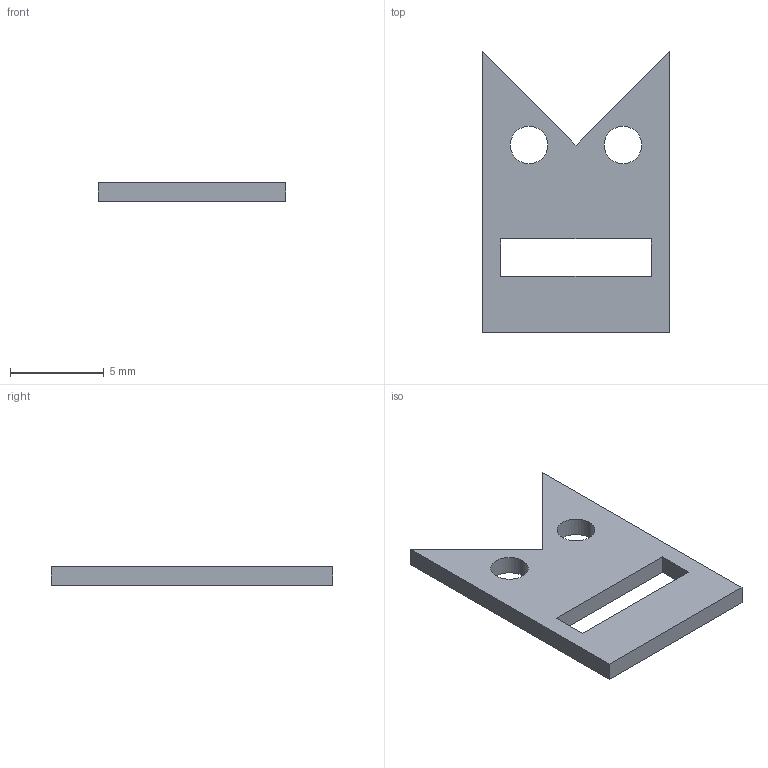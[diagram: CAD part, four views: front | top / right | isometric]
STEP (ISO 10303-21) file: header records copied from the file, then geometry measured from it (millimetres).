
FILE_DESCRIPTION(/* description */ ('Empty Shape Representation Sample File'),/* implementation_level */ '2;1');
FILE_NAME(/* name */ 'output_file',/* time_stamp */ '2018-05-14T17:29:14-04:00',/* author */ (''),/* organization */ (''),/* preprocessor_version */ 'ST-DEVELOPER v17.3',/* originating_system */ 'Geometry Demo',/* authorisation */ '');
FILE_SCHEMA (('AUTOMOTIVE_DESIGN { 1 0 10303 214 3 1 1 }'));
Length unit declared in the file: millimetre
Products named in the file (1): 1234-K789
Bounding box: 10 x 15 x 1 mm (x, y, z)
Volume: 102.7 mm3; surface area: 292.1 mm2
Topology: 1 solids, 1 shells, 15 faces, 39 edges, 26 vertices
Faces by surface type: plane 11, cylinder 4
Entity records: 400 total; most frequent: ORIENTED_EDGE 78, DIRECTION 61, EDGE_CURVE 39, LINE 31, VECTOR 31, CARTESIAN_POINT 30, VERTEX_POINT 26, EDGE_LOOP 21
